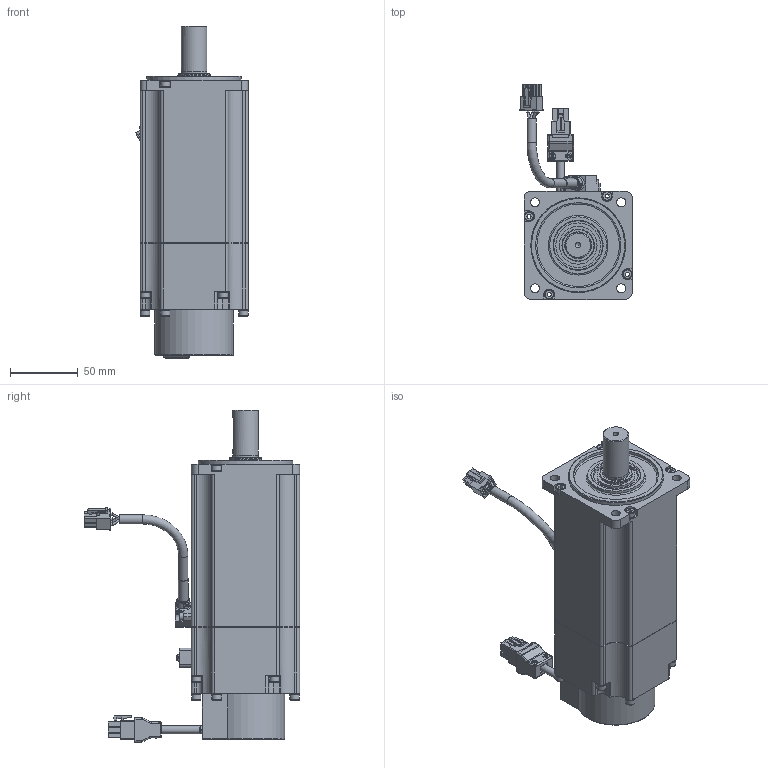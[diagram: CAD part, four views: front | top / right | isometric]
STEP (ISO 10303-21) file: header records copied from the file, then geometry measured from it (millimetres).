
FILE_DESCRIPTION(/* description */ (''),/* implementation_level */ '2;1');
FILE_NAME(/* name */ 'C:\Users\11755\Desktop\SME(磁編)\SME(磁編)_馬達外型圖(客戶版)\3D-STP\SME-L100B(磁編).stp',/* time_stamp */ '2021-08-03T11:41:29+08:00',/* author */ ('11755'),/* organization */ (''),/* preprocessor_version */ 'ST-DEVELOPER v17',/* originating_system */ 'Autodesk Inventor 2019',/* authorisation */ '');
FILE_SCHEMA (('AUTOMOTIVE_DESIGN { 1 0 10303 214 3 1 1 }'));
Products named in the file (1): SME-L100B(磁編)
Bounding box: 83.17 x 159.11 x 245.5 mm (x, y, z)
Volume: 1081194.5 mm3; surface area: 94076.7 mm2
Topology: 1 solids, 2 shells, 1569 faces, 4246 edges, 2738 vertices
Faces by surface type: plane 982, cylinder 301, cone 107, torus 71, bspline 70, sphere 38
Full cylindrical faces by diameter (mm): 1.2 x4, 1.5 x2, 1.6 x2, 2 x4, 2.6 x9, 4.2 x1, 5 x2, 5.5 x2, 5.8 x1, 6.1 x2, 6.6 x4, 6.8 x2, 6.9 x12, 7 x12, 7.2 x1, 9.6 x1, 18.8 x1, 19 x1, 23.8 x1, 24 x1, 28 x1, 33 x1, 42 x1, 63 x1, 70 x1
Entity records: 56877 total; most frequent: CARTESIAN_POINT 16081, ORIENTED_EDGE 8414, DIRECTION 7877, EDGE_CURVE 4207, VERTEX_POINT 2735, LINE 2677, VECTOR 2677, AXIS2_PLACEMENT_3D 2600
